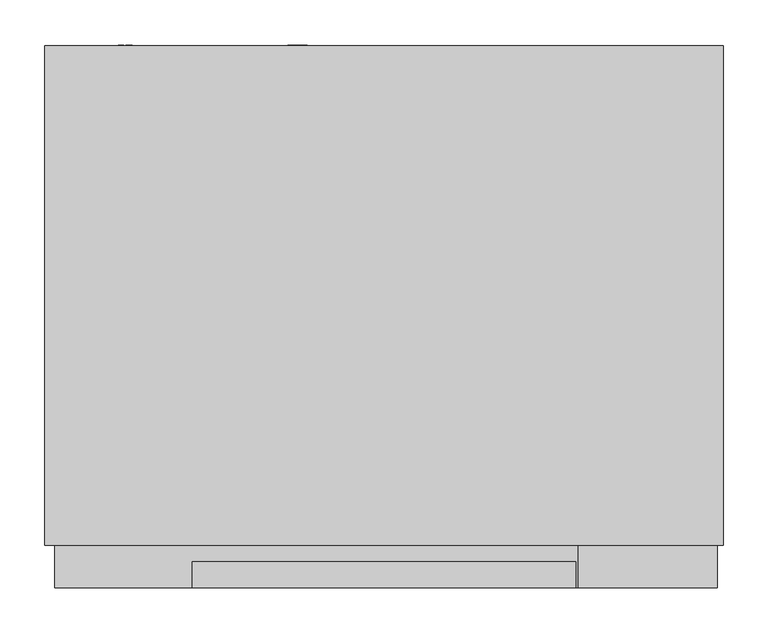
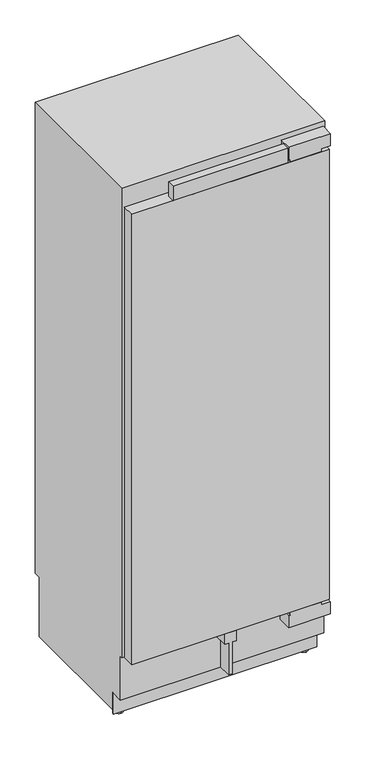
"""IFC4 building model written with IfcOpenShell, lengths in millimetres: proxy geometry, 11503330_USA_F2802Vi : 37280201_USA_11503330_F2802Vi."""

from ifc_helpers import new_model, si_unit, point, frame, frame_2d, origin, place, context, project, spatial, polyline, circle_curve, trimmed, segment, composite_curve, outline, extrude, source, transform, mapped, element, save
from ifc_brep_helpers import plane_surface, cylinder_surface, advanced_brep


def specialty_equipment_89827a06(model_context):
    return source(origin(), model_context, "Body", "SolidModel", [
        extrude(outline(polyline([(-367.0, 47.0), (367.0, 47.0), (367.0, 0.0), (-367.0, 0.0), (-367.0, 47.0)])), frame((0.0, 0.0, 265.0), z_axis=(0.0, 0.0, 1.0), x_axis=(1.0, 0.0, 0.0)), (0.0, 0.0, 1.0), 1771.0),
        extrude(outline(polyline([(-213.5, 29.0), (213.5, 29.0), (213.5, 0.0), (-213.5, 0.0), (-213.5, 29.0)])), frame((0.0, 0.0, 2036.0), z_axis=(0.0, 0.0, 1.0), x_axis=(1.0, 0.0, 0.0)), (0.0, 0.0, 1.0), 56.0),
        extrude(outline(polyline([(265.0, 21.0), (265.0, 0.0), (265.0, -21.0), (224.0, -21.0), (224.0, -6.5), (99.0, -6.5), (99.0, 0.0), (99.0, 6.5), (224.0, 6.5), (224.0, 21.0), (265.0, 21.0)])), frame((0.0, 0.0, 0.0), z_axis=(0.0, 1.0, 0.0), x_axis=(0.0, 0.0, 1.0)), (0.0, 0.0, 1.0), 54.0),
        extrude(outline(polyline([(519.0, 1998.0), (519.0, 1791.0), (450.0, 1791.0), (422.0, 1867.0), (201.7448904, 1867.0), (157.0, 1939.0), (87.0, 1949.0), (87.0, 1998.0), (519.0, 1998.0)])), frame((-332.0, 0.0, 0.0), z_axis=(1.0, 0.0, 0.0), x_axis=(0.0, 1.0, 0.0)), (0.0, 0.0, 1.0), 664.0),
        extrude(outline(polyline([(196.9886114, 1875.0), (195.809433, 1875.0), (158.6921935, 1934.4), (159.8713719, 1934.4), (196.9886114, 1875.0)])), frame((-69.0, 0.0, 0.0), z_axis=(1.0, 0.0, 0.0), x_axis=(0.0, 1.0, 0.0)), (0.0, 0.0, 1.0), 138.0),
        extrude(outline(polyline([(46.0510837, -95.101717), (37.4134902, -97.1745179), (46.0453554, -99.6868463), (46.0453554, -101.5601414), (37.4089549, -104.0799633), (46.0493903, -106.1581876), (46.0493903, -107.4649805), (36.0005458, -104.7156324), (36.0005458, -103.372208), (44.8261022, -100.6342221), (35.9987467, -98.0620509), (35.9987287, -96.5451466), (46.0510837, -93.800191), (46.0510837, -95.101717)])), frame((0.0, 604.0, 0.0), z_axis=(0.0, 1.0, 0.0), x_axis=(0.0, 0.0, 1.0)), (0.0, 0.0, 1.0), 1.0),
        extrude(outline(polyline([(46.0485238, -86.7401503), (41.1363122, -86.7401503), (46.0468162, -91.884602), (46.0468162, -93.6328316), (41.9156889, -89.3260313), (36.000035, -93.8032231), (36.000035, -92.2795519), (41.0742849, -88.4391666), (39.4525334, -86.7395503), (35.9999292, -86.7395503), (35.9999292, -85.4795491), (46.0485238, -85.4795491), (46.0485238, -86.7401503)])), frame((0.0, 604.0, 0.0), z_axis=(0.0, 1.0, 0.0), x_axis=(0.0, 0.0, 1.0)), (0.0, 0.0, 1.0), 1.0),
        extrude(outline(composite_curve([segment(trimmed(circle_curve(frame_2d((41.0, -96.0)), 7.5), [point((33.5, -96.0))], [point((48.5, -96.0))], False, "CARTESIAN"), True, "CONTINUOUS"), segment(trimmed(circle_curve(frame_2d((41.0, -96.0)), 7.5), [point((48.5, -96.0))], [point((33.5, -96.0))], False, "CARTESIAN"), True, "CONTINUOUS")], self_intersect=False)), frame((0.0, 577.0, 0.0), z_axis=(0.0, 1.0, 0.0), x_axis=(0.0, 0.0, 1.0)), (0.0, 0.0, 1.0), 27.0),
        extrude(outline(polyline([(2095.0, 371.5), (2095.0, 216.5), (2047.0, 216.5), (2047.0, 222.5), (2036.5, 222.5), (2036.5, 337.5), (2047.0, 337.5), (2047.0, 371.5), (2095.0, 371.5)])), frame((0.0, 0.0, 0.0), z_axis=(0.0, 1.0, 0.0), x_axis=(0.0, 0.0, 1.0)), (0.0, 0.0, 1.0), 47.0),
        extrude(outline(polyline([(254.0, 216.5), (206.0, 216.5), (206.0, 371.5), (254.0, 371.5), (254.0, 337.5), (264.0, 337.5), (264.0, 222.5), (254.0, 222.5), (254.0, 216.5)])), frame((0.0, 0.0, 0.0), z_axis=(0.0, 1.0, 0.0), x_axis=(0.0, 0.0, 1.0)), (0.0, 0.0, 1.0), 54.0),
        extrude(outline(polyline([(99.0373308, -287.7645771), (97.7615342, -287.7645771), (97.7615342, -281.8195541), (94.7968516, -281.8195541), (94.7968516, -287.469579), (93.5246295, -287.469579), (93.5246295, -281.8415693), (90.2570046, -281.8415693), (90.2570046, -287.9619689), (88.9546219, -287.9619689), (88.9546219, -280.5443524), (99.0373308, -280.5443524), (99.0373308, -287.7645771)])), frame((0.0, 604.0, 0.0), z_axis=(0.0, 1.0, 0.0), x_axis=(0.0, 0.0, 1.0)), (0.0, 0.0, 1.0), 1.0),
        extrude(outline(polyline([(99.0458, -291.0619704), (90.2663944, -291.0619704), (90.2663944, -296.1145879), (89.0134802, -296.1145879), (89.0134802, -289.8423809), (99.0458, -289.8423809), (99.0458, -291.0619704)])), frame((0.0, 604.0, 0.0), z_axis=(0.0, 1.0, 0.0), x_axis=(0.0, 0.0, 1.0)), (0.0, 0.0, 1.0), 1.0),
        extrude(outline(composite_curve([segment(trimmed(circle_curve(frame_2d((94.0, -288.0)), 7.5), [point((86.5, -288.0))], [point((101.5, -288.0))], False, "CARTESIAN"), True, "CONTINUOUS"), segment(trimmed(circle_curve(frame_2d((94.0, -288.0)), 7.5), [point((101.5, -288.0))], [point((86.5, -288.0))], False, "CARTESIAN"), True, "CONTINUOUS")], self_intersect=False)), frame((0.0, 577.0, 0.0), z_axis=(0.0, 1.0, 0.0), x_axis=(0.0, 0.0, 1.0)), (0.0, 0.0, 1.0), 27.0),
        extrude(outline(polyline([(-378.0, 104.0), (378.0, 104.0), (378.0, 99.0), (-378.0, 99.0), (-378.0, 104.0)])), frame((0.0, 0.0, 14.0), z_axis=(0.0, 0.0, 1.0), x_axis=(1.0, 0.0, 0.0)), (0.0, 0.0, 1.0), 83.0),
        advanced_brep(
        [(-344.0, 139.0, 0.0), (-344.0, 109.0, 0.0), (-344.0, 139.0, 7.0), (-344.0, 109.0, 7.0), (-344.0, 128.7, 7.0), (-344.0, 119.3, 7.0), (-344.0, 128.7, 28.0), (-344.0, 119.3, 28.0)],
        [
            (0, 1, circle_curve(frame((-344.0, 124.0, 0.0), z_axis=(0.0, 0.0, -1.0), x_axis=(1.0, 0.0, 0.0)), 15.0)),
            (1, 0, circle_curve(frame((-344.0, 124.0, 0.0), z_axis=(0.0, 0.0, -1.0), x_axis=(1.0, 0.0, 0.0)), 15.0)),
            (2, 3, circle_curve(frame((-344.0, 124.0, 7.0), z_axis=(0.0, 0.0, 1.0), x_axis=(1.0, 0.0, 0.0)), 15.0)),
            (3, 2, circle_curve(frame((-344.0, 124.0, 7.0), z_axis=(0.0, 0.0, 1.0), x_axis=(1.0, 0.0, 0.0)), 15.0)),
            (4, 5, circle_curve(frame((-344.0, 124.0, 7.0), z_axis=(0.0, 0.0, -1.0), x_axis=(0.0, -1.0, 0.0)), 4.7)),
            (5, 4, circle_curve(frame((-344.0, 124.0, 7.0), z_axis=(0.0, 0.0, -1.0), x_axis=(0.0, -1.0, 0.0)), 4.7)),
            (0, 2),
            (3, 1),
            (6, 7, circle_curve(frame((-344.0, 124.0, 28.0), z_axis=(0.0, 0.0, 1.0), x_axis=(0.0, -1.0, 0.0)), 4.7)),
            (7, 6, circle_curve(frame((-344.0, 124.0, 28.0), z_axis=(0.0, 0.0, 1.0), x_axis=(0.0, -1.0, 0.0)), 4.7)),
            (7, 5),
            (4, 6),
        ],
        [
            plane_surface(frame((-329.0, 124.0, 0.0), z_axis=(0.0, 0.0, -1.0), x_axis=(0.0, -1.0, 0.0))),
            plane_surface(frame((-329.0, 124.0, 7.0), z_axis=(0.0, 0.0, 1.0), x_axis=(0.0, 1.0, 0.0))),
            cylinder_surface(frame((-344.0, 124.0, 7.0), z_axis=(0.0, 0.0, -1.0), x_axis=(1.0, 0.0, 0.0)), 15.0),
            plane_surface(frame((-344.0, 119.3, 28.0), z_axis=(0.0, 0.0, 1.0), x_axis=(1.0, 0.0, 0.0))),
            cylinder_surface(frame((-344.0, 124.0, 28.0), z_axis=(0.0, 0.0, -1.0), x_axis=(0.0, -1.0, 0.0)), 4.7),
        ],
        [
            (0, [[1, 2]]),
            (1, [[3, 4], [5, 6]]),
            (2, [[-1, 7, -4, 8]]),
            (2, [[-2, -8, -3, -7]]),
            (3, [[9, 10]]),
            (4, [[-10, 11, -5, 12]]),
            (4, [[-9, -12, -6, -11]]),
        ],
    ),
        advanced_brep(
        [(344.0, 139.0, 0.0), (344.0, 109.0, 0.0), (344.0, 139.0, 7.0), (344.0, 109.0, 7.0), (344.0, 128.7, 7.0), (344.0, 119.3, 7.0), (344.0, 128.7, 28.0), (344.0, 119.3, 28.0)],
        [
            (0, 1, circle_curve(frame((344.0, 124.0, 0.0), z_axis=(0.0, 0.0, -1.0), x_axis=(1.0, 0.0, 0.0)), 15.0)),
            (1, 0, circle_curve(frame((344.0, 124.0, 0.0), z_axis=(0.0, 0.0, -1.0), x_axis=(1.0, 0.0, 0.0)), 15.0)),
            (2, 3, circle_curve(frame((344.0, 124.0, 7.0), z_axis=(0.0, 0.0, 1.0), x_axis=(1.0, 0.0, 0.0)), 15.0)),
            (3, 2, circle_curve(frame((344.0, 124.0, 7.0), z_axis=(0.0, 0.0, 1.0), x_axis=(1.0, 0.0, 0.0)), 15.0)),
            (4, 5, circle_curve(frame((344.0, 124.0, 7.0), z_axis=(0.0, 0.0, -1.0), x_axis=(0.0, -1.0, 0.0)), 4.7)),
            (5, 4, circle_curve(frame((344.0, 124.0, 7.0), z_axis=(0.0, 0.0, -1.0), x_axis=(0.0, -1.0, 0.0)), 4.7)),
            (0, 2),
            (3, 1),
            (6, 7, circle_curve(frame((344.0, 124.0, 28.0), z_axis=(0.0, 0.0, 1.0), x_axis=(0.0, -1.0, 0.0)), 4.7)),
            (7, 6, circle_curve(frame((344.0, 124.0, 28.0), z_axis=(0.0, 0.0, 1.0), x_axis=(0.0, -1.0, 0.0)), 4.7)),
            (7, 5),
            (4, 6),
        ],
        [
            plane_surface(frame((-329.0, 124.0, 0.0), z_axis=(0.0, 0.0, -1.0), x_axis=(0.0, -1.0, 0.0))),
            plane_surface(frame((-329.0, 124.0, 7.0), z_axis=(0.0, 0.0, 1.0), x_axis=(0.0, 1.0, 0.0))),
            cylinder_surface(frame((344.0, 124.0, 7.0), z_axis=(0.0, 0.0, -1.0), x_axis=(1.0, 0.0, 0.0)), 15.0),
            plane_surface(frame((-344.0, 119.3, 28.0), z_axis=(0.0, 0.0, 1.0), x_axis=(1.0, 0.0, 0.0))),
            cylinder_surface(frame((344.0, 124.0, 28.0), z_axis=(0.0, 0.0, -1.0), x_axis=(0.0, -1.0, 0.0)), 4.7),
        ],
        [
            (0, [[1, 2]]),
            (1, [[3, 4], [5, 6]]),
            (2, [[-1, 7, -4, 8]]),
            (2, [[-2, -8, -3, -7]]),
            (3, [[9, 10]]),
            (4, [[-10, 11, -5, 12]]),
            (4, [[-9, -12, -6, -11]]),
        ],
    ),
        advanced_brep(
        [(378.0, 47.0, 2114.0), (378.0, 47.0, 267.0), (378.0, 54.0, 267.0), (378.0, 54.0, 97.0), (378.0, 104.0, 97.0), (378.0, 104.0, 28.0), (378.0, 577.0, 28.0), (378.0, 577.0, 263.0), (378.0, 604.0, 263.0), (378.0, 604.0, 2114.0), (-378.0, 47.0, 2114.0), (-378.0, 604.0, 2114.0), (-378.0, 604.0, 263.0), (-378.0, 577.0, 263.0), (-378.0, 577.0, 28.0), (-378.0, 104.0, 28.0), (-378.0, 104.0, 97.0), (-378.0, 54.0, 97.0), (-378.0, 54.0, 267.0), (-378.0, 47.0, 267.0), (318.0, 577.0, 28.0), (318.0, 577.0, 14.0), (-318.0, 577.0, 14.0), (-318.0, 577.0, 28.0), (318.0, 104.0, 14.0), (-318.0, 104.0, 14.0), (-318.0, 104.0, 28.0), (318.0, 104.0, 28.0), (332.0, 47.0, 1998.0), (332.0, 47.0, 343.0), (-332.0, 47.0, 343.0), (-332.0, 47.0, 1998.0), (332.0, 519.0, 1998.0), (-332.0, 519.0, 1998.0), (-332.0, 519.0, 343.0), (332.0, 519.0, 343.0), (-336.5, 202.8193473, 28.0), (-355.5, 202.8193473, 28.0), (-355.5, 153.1806527, 28.0), (-336.5, 153.1806527, 28.0), (-356.0, 525.8193473, 28.0), (-356.0, 476.1806527, 28.0), (-340.0, 476.1806527, 28.0), (-340.0, 525.8193473, 28.0), (355.5, 153.1806527, 28.0), (355.5, 202.8193473, 28.0), (336.5, 202.8193473, 28.0), (336.5, 153.1806527, 28.0), (340.0, 525.8193473, 28.0), (340.0, 476.1806527, 28.0), (356.0, 476.1806527, 28.0), (356.0, 525.8193473, 28.0), (-336.5, 203.0, 25.0), (-336.5, 153.0, 25.0), (-355.5, 153.0, 25.0), (-355.5, 203.0, 25.0), (-336.5, 178.0, 25.0), (-355.5, 178.0, 25.0), (355.5, 178.0, 25.0), (355.5, 153.0, 25.0), (355.5, 203.0, 25.0), (336.5, 203.0, 25.0), (336.5, 153.0, 25.0), (336.5, 178.0, 25.0), (-356.0, 526.0, 25.0), (-356.0, 476.0, 25.0), (-356.0, 501.0, 25.0), (-340.0, 526.0, 25.0), (-340.0, 476.0, 25.0), (-340.0, 501.0, 25.0), (340.0, 526.0, 25.0), (340.0, 476.0, 25.0), (340.0, 501.0, 25.0), (356.0, 526.0, 25.0), (356.0, 476.0, 25.0), (356.0, 501.0, 25.0)],
        [
            (0, 1),
            (1, 2),
            (2, 3),
            (3, 4),
            (4, 5),
            (5, 6),
            (6, 7),
            (7, 8),
            (8, 9),
            (9, 0),
            (10, 11),
            (11, 12),
            (12, 13),
            (13, 14),
            (14, 15),
            (15, 16),
            (16, 17),
            (17, 18),
            (18, 19),
            (19, 10),
            (9, 11),
            (10, 0),
            (8, 12),
            (7, 13),
            (6, 20),
            (20, 21),
            (21, 22),
            (22, 23),
            (23, 14),
            (21, 24),
            (24, 25),
            (25, 22),
            (4, 16),
            (15, 26),
            (26, 25),
            (24, 27),
            (27, 5),
            (3, 17),
            (2, 18),
            (1, 19),
            (28, 29),
            (29, 30),
            (30, 31),
            (31, 28),
            (32, 33),
            (33, 34),
            (34, 35),
            (35, 32),
            (35, 29),
            (28, 32),
            (34, 30),
            (33, 31),
            (23, 26),
            (36, 37),
            (37, 38),
            (38, 39),
            (39, 36),
            (40, 41),
            (41, 42),
            (42, 43),
            (43, 40),
            (27, 20),
            (44, 45),
            (45, 46),
            (46, 47),
            (47, 44),
            (48, 49),
            (49, 50),
            (50, 51),
            (51, 48),
            (52, 53, circle_curve(frame((-336.5, 178.0, 25.0), z_axis=(-1.0, 0.0, 0.0), x_axis=(0.0, -1.0, 0.0)), 25.0)),
            (53, 54),
            (54, 55, circle_curve(frame((-355.5, 178.0, 25.0), z_axis=(1.0, 0.0, 0.0), x_axis=(0.0, -1.0, 0.0)), 25.0)),
            (55, 52),
            (53, 39, circle_curve(frame((-336.5, 178.0, 25.0), z_axis=(-1.0, 0.0, 0.0), x_axis=(0.0, -1.0, 0.0)), 25.0)),
            (38, 54, circle_curve(frame((-355.5, 178.0, 25.0), z_axis=(1.0, 0.0, 0.0), x_axis=(0.0, -1.0, 0.0)), 25.0)),
            (55, 37, circle_curve(frame((-355.5, 178.0, 25.0), z_axis=(1.0, 0.0, 0.0), x_axis=(0.0, -1.0, 0.0)), 25.0)),
            (36, 52, circle_curve(frame((-336.5, 178.0, 25.0), z_axis=(-1.0, 0.0, 0.0), x_axis=(0.0, -1.0, 0.0)), 25.0)),
            (52, 56),
            (56, 53),
            (54, 57),
            (57, 55),
            (58, 59),
            (59, 60, circle_curve(frame((355.5, 178.0, 25.0), z_axis=(1.0, 0.0, 0.0), x_axis=(0.0, -1.0, 0.0)), 25.0)),
            (60, 58),
            (60, 45, circle_curve(frame((355.5, 178.0, 25.0), z_axis=(1.0, 0.0, 0.0), x_axis=(0.0, -1.0, 0.0)), 25.0)),
            (44, 59, circle_curve(frame((355.5, 178.0, 25.0), z_axis=(1.0, 0.0, 0.0), x_axis=(0.0, -1.0, 0.0)), 25.0)),
            (61, 62, circle_curve(frame((336.5, 178.0, 25.0), z_axis=(-1.0, 0.0, 0.0), x_axis=(0.0, -1.0, 0.0)), 25.0)),
            (62, 63),
            (63, 61),
            (62, 47, circle_curve(frame((336.5, 178.0, 25.0), z_axis=(-1.0, 0.0, 0.0), x_axis=(0.0, -1.0, 0.0)), 25.0)),
            (46, 61, circle_curve(frame((336.5, 178.0, 25.0), z_axis=(-1.0, 0.0, 0.0), x_axis=(0.0, -1.0, 0.0)), 25.0)),
            (64, 65, circle_curve(frame((-356.0, 501.0, 25.0), z_axis=(-1.0, 0.0, 0.0), x_axis=(0.0, -1.0, 0.0)), 25.0)),
            (65, 66),
            (66, 64),
            (65, 41, circle_curve(frame((-356.0, 501.0, 25.0), z_axis=(-1.0, 0.0, 0.0), x_axis=(0.0, -1.0, 0.0)), 25.0)),
            (40, 64, circle_curve(frame((-356.0, 501.0, 25.0), z_axis=(-1.0, 0.0, 0.0), x_axis=(0.0, -1.0, 0.0)), 25.0)),
            (64, 67),
            (67, 68, circle_curve(frame((-340.0, 501.0, 25.0), z_axis=(-1.0, 0.0, 0.0), x_axis=(0.0, -1.0, 0.0)), 25.0)),
            (68, 65),
            (43, 67, circle_curve(frame((-340.0, 501.0, 25.0), z_axis=(-1.0, 0.0, 0.0), x_axis=(0.0, -1.0, 0.0)), 25.0)),
            (68, 42, circle_curve(frame((-340.0, 501.0, 25.0), z_axis=(-1.0, 0.0, 0.0), x_axis=(0.0, -1.0, 0.0)), 25.0)),
            (67, 69),
            (69, 68),
            (70, 71, circle_curve(frame((340.0, 501.0, 25.0), z_axis=(-1.0, 0.0, 0.0), x_axis=(0.0, -1.0, 0.0)), 25.0)),
            (71, 72),
            (72, 70),
            (71, 49, circle_curve(frame((340.0, 501.0, 25.0), z_axis=(-1.0, 0.0, 0.0), x_axis=(0.0, -1.0, 0.0)), 25.0)),
            (48, 70, circle_curve(frame((340.0, 501.0, 25.0), z_axis=(-1.0, 0.0, 0.0), x_axis=(0.0, -1.0, 0.0)), 25.0)),
            (70, 73),
            (73, 74, circle_curve(frame((356.0, 501.0, 25.0), z_axis=(-1.0, 0.0, 0.0), x_axis=(0.0, -1.0, 0.0)), 25.0)),
            (74, 71),
            (51, 73, circle_curve(frame((356.0, 501.0, 25.0), z_axis=(-1.0, 0.0, 0.0), x_axis=(0.0, -1.0, 0.0)), 25.0)),
            (74, 50, circle_curve(frame((356.0, 501.0, 25.0), z_axis=(-1.0, 0.0, 0.0), x_axis=(0.0, -1.0, 0.0)), 25.0)),
            (73, 75),
            (75, 74),
            (59, 62),
            (61, 60),
        ],
        [
            plane_surface(frame((378.0, 604.0, 2114.0), z_axis=(1.0, 0.0, 0.0), x_axis=(0.0, -1.0, 0.0))),
            plane_surface(frame((-378.0, 604.0, 2114.0), z_axis=(-1.0, 0.0, 0.0), x_axis=(0.0, 1.0, 0.0))),
            plane_surface(frame((-378.0, 47.0, 2114.0), z_axis=(0.0, 0.0, 1.0), x_axis=(1.0, 0.0, 0.0))),
            plane_surface(frame((-378.0, 604.0, 2114.0), z_axis=(0.0, 1.0, 0.0), x_axis=(1.0, 0.0, 0.0))),
            plane_surface(frame((-378.0, 604.0, 263.0), z_axis=(0.0, 0.0, -1.0), x_axis=(1.0, 0.0, 0.0))),
            plane_surface(frame((-378.0, 577.0, 263.0), z_axis=(0.0, 1.0, 0.0), x_axis=(1.0, 0.0, 0.0))),
            plane_surface(frame((-378.0, 577.0, 14.0), z_axis=(0.0, 0.0, -1.0), x_axis=(1.0, 0.0, 0.0))),
            plane_surface(frame((-378.0, 104.0, 14.0), z_axis=(0.0, -1.0, 0.0), x_axis=(1.0, 0.0, 0.0))),
            plane_surface(frame((-378.0, 104.0, 97.0), z_axis=(0.0, 0.0, -1.0), x_axis=(1.0, 0.0, 0.0))),
            plane_surface(frame((-378.0, 54.0, 97.0), z_axis=(0.0, -1.0, 0.0), x_axis=(1.0, 0.0, 0.0))),
            plane_surface(frame((-378.0, 54.0, 267.0), z_axis=(0.0, 0.0, -1.0), x_axis=(1.0, 0.0, 0.0))),
            plane_surface(frame((-378.0, 47.0, 267.0), z_axis=(0.0, -1.0, 0.0), x_axis=(1.0, 0.0, 0.0))),
            plane_surface(frame((332.0, 519.0, 1998.0), z_axis=(0.0, -1.0, 0.0), x_axis=(0.0, 0.0, -1.0))),
            plane_surface(frame((332.0, 519.0, 1998.0), z_axis=(-1.0, 0.0, 0.0), x_axis=(0.0, -1.0, 0.0))),
            plane_surface(frame((332.0, 519.0, 343.0), z_axis=(0.0, 0.0, 1.0), x_axis=(0.0, -1.0, 0.0))),
            plane_surface(frame((-332.0, 519.0, 343.0), z_axis=(1.0, 0.0, 0.0), x_axis=(0.0, -1.0, 0.0))),
            plane_surface(frame((-332.0, 519.0, 1998.0), z_axis=(0.0, 0.0, -1.0), x_axis=(0.0, -1.0, 0.0))),
            plane_surface(frame((-378.0, 604.0, 28.0), z_axis=(0.0, 0.0, -1.0), x_axis=(-1.0, 0.0, 0.0))),
            plane_surface(frame((-318.0, 104.0, 28.0), z_axis=(-1.0, 0.0, 0.0), x_axis=(0.0, 0.0, -1.0))),
            plane_surface(frame((318.0, 604.0, 28.0), z_axis=(1.0, 0.0, 0.0), x_axis=(0.0, 0.0, -1.0))),
            cylinder_surface(frame((-470.6988927, 178.0, 25.0), z_axis=(1.0, 0.0, 0.0), x_axis=(0.0, -1.0, 0.0)), 25.0),
            plane_surface(frame((-336.5, 178.0, 25.0), z_axis=(1.0, 0.0, 0.0), x_axis=(0.0, -1.0, 0.0))),
            plane_surface(frame((-355.5, 178.0, 25.0), z_axis=(-1.0, 0.0, 0.0), x_axis=(0.0, -1.0, 0.0))),
            plane_surface(frame((355.5, 178.0, 25.0), z_axis=(1.0, 0.0, 0.0), x_axis=(0.0, -1.0, 0.0))),
            plane_surface(frame((336.5, 178.0, 25.0), z_axis=(-1.0, 0.0, 0.0), x_axis=(0.0, -1.0, 0.0))),
            plane_surface(frame((-356.0, 501.0, 25.0), z_axis=(-1.0, 0.0, 0.0), x_axis=(0.0, -1.0, 0.0))),
            cylinder_surface(frame((-470.6988927, 501.0, 25.0), z_axis=(1.0, 0.0, 0.0), x_axis=(0.0, -1.0, 0.0)), 25.0),
            plane_surface(frame((-340.0, 501.0, 25.0), z_axis=(1.0, 0.0, 0.0), x_axis=(0.0, -1.0, 0.0))),
            plane_surface(frame((340.0, 501.0, 25.0), z_axis=(-1.0, 0.0, 0.0), x_axis=(0.0, -1.0, 0.0))),
            plane_surface(frame((356.0, 501.0, 25.0), z_axis=(1.0, 0.0, 0.0), x_axis=(0.0, -1.0, 0.0))),
        ],
        [
            (0, [[1, 2, 3, 4, 5, 6, 7, 8, 9, 10]]),
            (1, [[11, 12, 13, 14, 15, 16, 17, 18, 19, 20]]),
            (2, [[-10, 21, -11, 22]]),
            (3, [[-9, 23, -12, -21]]),
            (4, [[-8, 24, -13, -23]]),
            (5, [[-24, -7, 25, 26, 27, 28, 29, -14]]),
            (6, [[-27, 30, 31, 32]]),
            (7, [[33, -16, 34, 35, -31, 36, 37, -5]]),
            (8, [[-4, 38, -17, -33]]),
            (9, [[-3, 39, -18, -38]]),
            (10, [[-2, 40, -19, -39]]),
            (11, [[-1, -22, -20, -40], [41, 42, 43, 44]]),
            (12, [[45, 46, 47, 48]]),
            (13, [[-48, 49, -41, 50]]),
            (14, [[-47, 51, -42, -49]]),
            (15, [[-46, 52, -43, -51]]),
            (16, [[-45, -50, -44, -52]]),
            (17, [[53, -34, -15, -29], [54, 55, 56, 57], [58, 59, 60, 61]]),
            (17, [[62, -25, -6, -37], [63, 64, 65, 66], [67, 68, 69, 70]]),
            (18, [[-53, -28, -32, -35]]),
            (19, [[-62, -36, -30, -26]]),
            (20, [[71, 72, 73, 74]]),
            (20, [[-72, 75, -56, 76]]),
            (20, [[-74, 77, -54, 78]]),
            (21, [[-71, 79, 80]]),
            (21, [[-80, -79, -78, -57, -75]]),
            (22, [[-73, 81, 82]]),
            (22, [[-81, -76, -55, -77, -82]]),
            (23, [[83, 84, 85]]),
            (23, [[-83, -85, 86, -63, 87]]),
            (24, [[88, 89, 90]]),
            (24, [[-89, 91, -65, 92, -90]]),
            (25, [[93, 94, 95]]),
            (25, [[-94, 96, -58, 97, -95]]),
            (26, [[-93, 98, 99, 100]]),
            (26, [[-98, -97, -61, 101]]),
            (26, [[-100, 102, -59, -96]]),
            (27, [[-99, 103, 104]]),
            (27, [[-104, -103, -101, -60, -102]]),
            (28, [[105, 106, 107]]),
            (28, [[-106, 108, -67, 109, -107]]),
            (26, [[-105, 110, 111, 112]]),
            (26, [[-110, -109, -70, 113]]),
            (26, [[-112, 114, -68, -108]]),
            (29, [[-111, 115, 116]]),
            (29, [[-116, -115, -113, -69, -114]]),
            (20, [[-84, 117, -88, 118]]),
            (20, [[-117, -87, -66, -91]]),
            (20, [[-118, -92, -64, -86]]),
        ],
    ),
    ])


if __name__ == "__main__":
    model = new_model("IFC4")
    model_context = context("Model", 3, world=origin())
    ifc_project = project(units=[si_unit("LENGTHUNIT", "METRE", prefix="MILLI")], contexts=[model_context])
    site = spatial("IfcSite", under=ifc_project)
    building = spatial("IfcBuilding", under=site)
    placement = place(None, origin())
    specialty_equipment_shape = specialty_equipment_89827a06(model_context)
    element("IfcBuildingElementProxy", 1, Name="11503330_USA_F2802Vi : 37280201_USA_11503330_F2802Vi", ObjectType="11503330_USA_F2802Vi : 37280201_USA_11503330_F2802Vi", at=placement, inside=building, context=model_context, shape_type="MappedRepresentation", body=[
        mapped(specialty_equipment_shape, transform((0.0, 0.0, 0.0), x_axis=(1.0, 0.0, 0.0), y_axis=(0.0, 1.0, 0.0), z_axis=(0.0, 0.0, 1.0))),
    ])
    save(model, "model.ifc")
